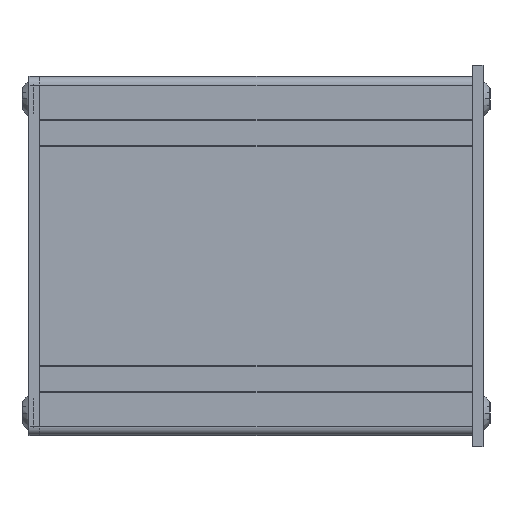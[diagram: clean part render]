
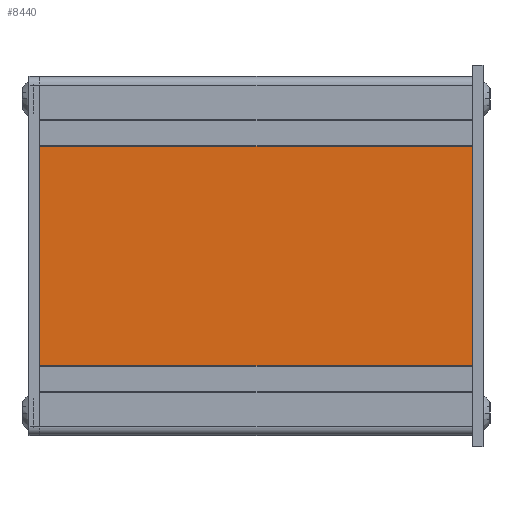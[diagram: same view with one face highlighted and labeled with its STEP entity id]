
A CAD part, left-side view. The second image highlights one B-rep face of the part: STEP entity #8440.
In plain terms, the highlighted planar face has unit normal (-1, 0, 0).
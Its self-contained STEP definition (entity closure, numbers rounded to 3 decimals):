
#932=PLANE('',#9294);
#1230=FACE_OUTER_BOUND('',#1760,.T.);
#1760=EDGE_LOOP('',(#6487,#6488,#6489,#6490));
#2504=LINE('',#13370,#3182);
#2514=LINE('',#13391,#3192);
#2515=LINE('',#13393,#3193);
#2516=LINE('',#13394,#3194);
#3182=VECTOR('',#10716,10.);
#3192=VECTOR('',#10734,10.);
#3193=VECTOR('',#10735,10.);
#3194=VECTOR('',#10736,10.);
#4160=VERTEX_POINT('',#13363);
#4163=VERTEX_POINT('',#13368);
#4170=VERTEX_POINT('',#13390);
#4171=VERTEX_POINT('',#13392);
#4995=EDGE_CURVE('',#4160,#4163,#2504,.T.);
#5005=EDGE_CURVE('',#4160,#4170,#2514,.T.);
#5006=EDGE_CURVE('',#4171,#4163,#2515,.T.);
#5007=EDGE_CURVE('',#4170,#4171,#2516,.T.);
#6487=ORIENTED_EDGE('',*,*,#5005,.F.);
#6488=ORIENTED_EDGE('',*,*,#4995,.T.);
#6489=ORIENTED_EDGE('',*,*,#5006,.F.);
#6490=ORIENTED_EDGE('',*,*,#5007,.F.);
#8440=ADVANCED_FACE('',(#1230),#932,.T.);
#9294=AXIS2_PLACEMENT_3D('',#13389,#10732,#10733);
#10716=DIRECTION('',(0.,1.,0.));
#10732=DIRECTION('center_axis',(-1.,0.,0.));
#10733=DIRECTION('ref_axis',(0.,0.,1.));
#10734=DIRECTION('',(0.,0.,-1.));
#10735=DIRECTION('',(0.,0.,1.));
#10736=DIRECTION('',(0.,1.,0.));
#13363=CARTESIAN_POINT('',(239.,0.,-18.65));
#13368=CARTESIAN_POINT('',(239.,100.,-18.65));
#13370=CARTESIAN_POINT('',(239.,0.,-18.65));
#13389=CARTESIAN_POINT('Origin',(239.,0.,-69.45));
#13390=CARTESIAN_POINT('',(239.,0.,-69.45));
#13391=CARTESIAN_POINT('',(239.,0.,-44.05));
#13392=CARTESIAN_POINT('',(239.,100.,-69.45));
#13393=CARTESIAN_POINT('',(239.,100.,-44.05));
#13394=CARTESIAN_POINT('',(239.,0.,-69.45));
